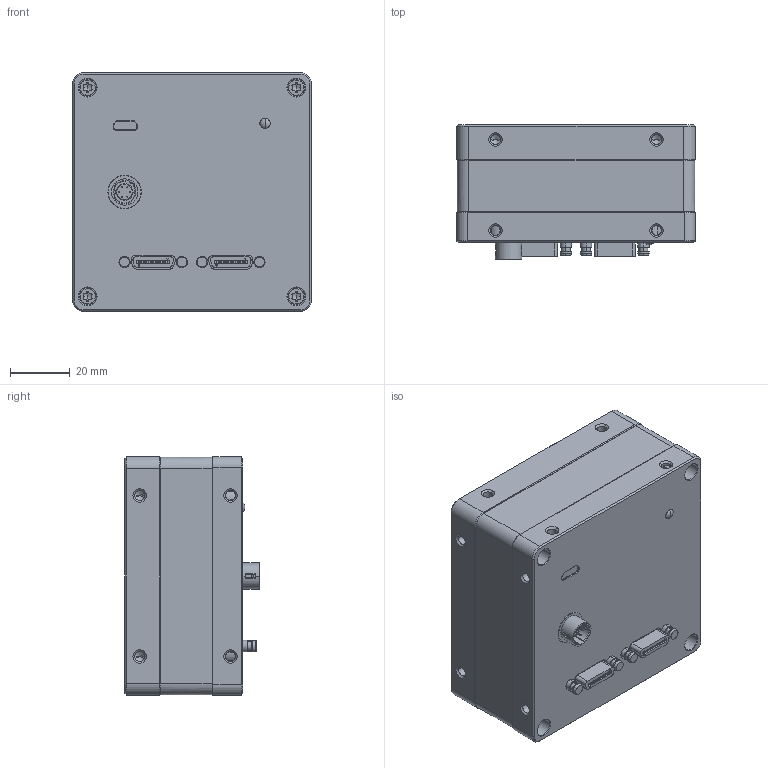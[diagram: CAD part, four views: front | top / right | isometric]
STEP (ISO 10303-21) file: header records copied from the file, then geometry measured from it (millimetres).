
FILE_DESCRIPTION((''),'2;1');
FILE_NAME('0-DH3-2198-0006_SW0001','2023-12-20T14:24:23',('303992'),(''),'CREO PARAMETRIC BY PTC INC, 2020184','CREO PARAMETRIC BY PTC INC, 2020184','');
FILE_SCHEMA(('CONFIG_CONTROL_DESIGN','SHAPE_APPEARANCE_LAYERS_GROUPS'));
Products named in the file (1): 0-DH3-2198-0006_SW0001
Bounding box: 80 x 45.08 x 80 mm (x, y, z)
Volume: 222159.3 mm3; surface area: 31370.4 mm2
Topology: 1 solids, 1 shells, 1040 faces, 2614 edges, 1617 vertices
Faces by surface type: plane 575, cylinder 274, cone 147, bspline 40, torus 2, sphere 2
Entity records: 55547 total; most frequent: CARTESIAN_POINT 14929, DIRECTION 5211, ORIENTED_EDGE 5160, PRESENTATION_STYLE_ASSIGNMENT 3604, STYLED_ITEM 2586, CURVE_STYLE 2580, EDGE_CURVE 2580, VECTOR 1757
